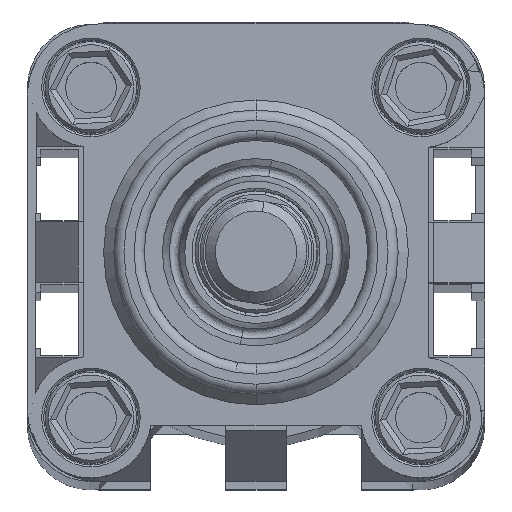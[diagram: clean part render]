
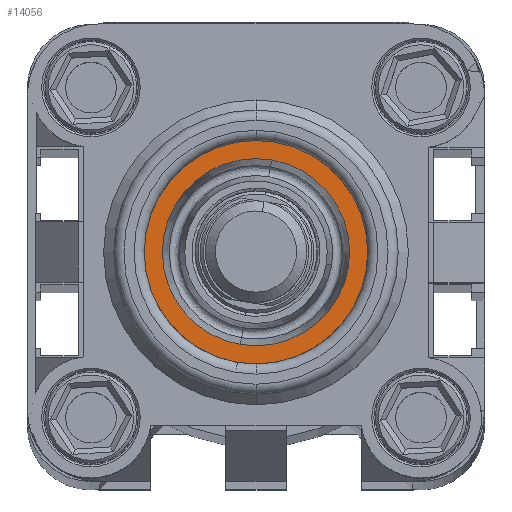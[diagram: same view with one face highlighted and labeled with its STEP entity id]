
A CAD part, top view. The second image highlights one B-rep face of the part: STEP entity #14056.
In plain terms, the highlighted planar face has unit normal (0, 0, 1) as drawn and (0, -1, 0) by its records, which use the part's own axes.
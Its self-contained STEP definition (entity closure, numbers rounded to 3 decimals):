
#1195 = DIRECTION ( 'NONE',  ( 0., 1., 0. ) ) ;
#1327 = VERTEX_POINT ( 'NONE', #10096 ) ;
#1846 = VERTEX_POINT ( 'NONE', #11720 ) ;
#2251 = CIRCLE ( 'NONE', #18232, 11. ) ;
#3050 = EDGE_CURVE ( 'NONE', #1846, #17361, #6238, .T. ) ;
#3053 = EDGE_CURVE ( 'NONE', #17080, #1327, #8820, .T. ) ;
#3234 = EDGE_CURVE ( 'NONE', #1327, #17080, #2251, .T. ) ;
#4014 = CARTESIAN_POINT ( 'NONE',  ( -11., -10.4, 0. ) ) ;
#4144 = AXIS2_PLACEMENT_3D ( 'NONE', #4014, #13284, #22059 ) ;
#4882 = ORIENTED_EDGE ( 'NONE', *, *, #17929, .T. ) ;
#4953 = DIRECTION ( 'NONE',  ( 0., 1., 0. ) ) ;
#5247 = CIRCLE ( 'NONE', #14372, 9.214 ) ;
#6238 = CIRCLE ( 'NONE', #9455, 9.214 ) ;
#6782 = CARTESIAN_POINT ( 'NONE',  ( 0., -10.4, 0. ) ) ;
#8437 = CARTESIAN_POINT ( 'NONE',  ( 0., -10.4, 0. ) ) ;
#8569 = AXIS2_PLACEMENT_3D ( 'NONE', #6782, #10152, #10305 ) ;
#8820 = CIRCLE ( 'NONE', #8569, 11. ) ;
#9242 = FACE_BOUND ( 'NONE', #17066, .T. ) ;
#9455 = AXIS2_PLACEMENT_3D ( 'NONE', #15878, #4953, #17696 ) ;
#10096 = CARTESIAN_POINT ( 'NONE',  ( 0., -10.4, -11. ) ) ;
#10152 = DIRECTION ( 'NONE',  ( 0., 1., 0. ) ) ;
#10305 = DIRECTION ( 'NONE',  ( 0., 0., 1. ) ) ;
#11720 = CARTESIAN_POINT ( 'NONE',  ( 0., -10.4, 9.214 ) ) ;
#12088 = CARTESIAN_POINT ( 'NONE',  ( 0., -10.4, 0. ) ) ;
#12091 = DIRECTION ( 'NONE',  ( 0., 0., 1. ) ) ;
#13090 = ORIENTED_EDGE ( 'NONE', *, *, #3053, .F. ) ;
#13284 = DIRECTION ( 'NONE',  ( 0., -1., 0. ) ) ;
#13435 = EDGE_LOOP ( 'NONE', ( #13090, #18872 ) ) ;
#13861 = DIRECTION ( 'NONE',  ( 0., 0., -1. ) ) ;
#14056 = ADVANCED_FACE ( 'NONE', ( #9242, #17701 ), #20401, .T. ) ;
#14372 = AXIS2_PLACEMENT_3D ( 'NONE', #12088, #1195, #13861 ) ;
#15710 = CARTESIAN_POINT ( 'NONE',  ( 0., -10.4, -9.214 ) ) ;
#15878 = CARTESIAN_POINT ( 'NONE',  ( 0., -10.4, 0. ) ) ;
#16195 = CARTESIAN_POINT ( 'NONE',  ( 0., -10.4, 11. ) ) ;
#17066 = EDGE_LOOP ( 'NONE', ( #4882, #23374 ) ) ;
#17080 = VERTEX_POINT ( 'NONE', #16195 ) ;
#17361 = VERTEX_POINT ( 'NONE', #15710 ) ;
#17696 = DIRECTION ( 'NONE',  ( 0., 0., -1. ) ) ;
#17701 = FACE_OUTER_BOUND ( 'NONE', #13435, .T. ) ;
#17929 = EDGE_CURVE ( 'NONE', #17361, #1846, #5247, .T. ) ;
#18232 = AXIS2_PLACEMENT_3D ( 'NONE', #8437, #22557, #12091 ) ;
#18872 = ORIENTED_EDGE ( 'NONE', *, *, #3234, .F. ) ;
#20401 = PLANE ( 'NONE',  #4144 ) ;
#22059 = DIRECTION ( 'NONE',  ( 0., 0., -1. ) ) ;
#22557 = DIRECTION ( 'NONE',  ( 0., 1., 0. ) ) ;
#23374 = ORIENTED_EDGE ( 'NONE', *, *, #3050, .T. ) ;
